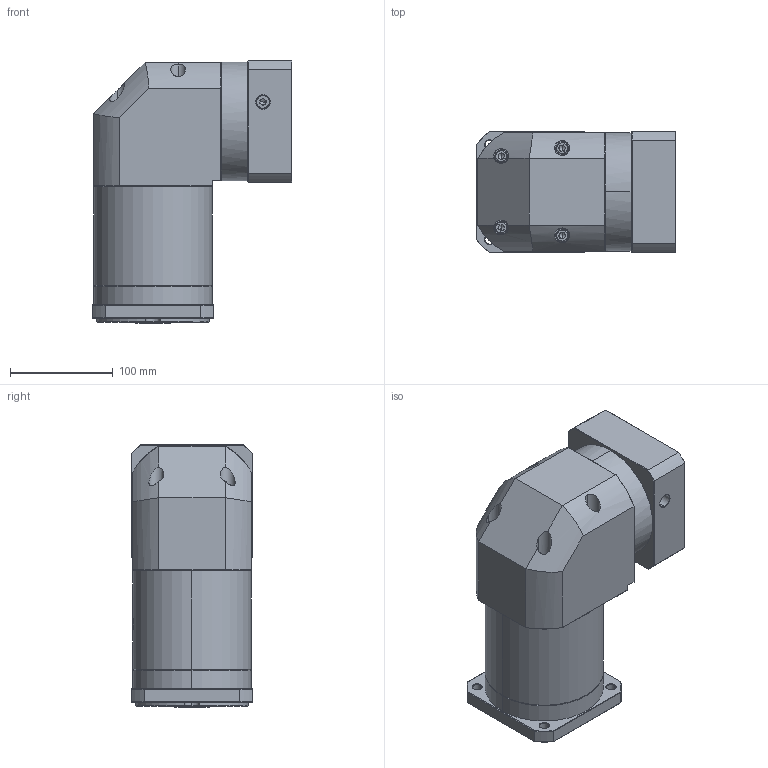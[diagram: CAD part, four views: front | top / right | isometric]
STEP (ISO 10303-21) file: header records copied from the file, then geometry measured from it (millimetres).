
FILE_DESCRIPTION (( 'STEP AP214' ), '1' );
FILE_NAME ('ZFR120A-K25-L3-P2-22-110-130-M8.step', '2023-08-27T08:17:20', ( '' ), ( '' ), 'SwSTEP 2.0', 'SolidWorks 2016', '' );
FILE_SCHEMA (( 'AUTOMOTIVE_DESIGN' ));
Length unit declared in the file: millimetre
Products named in the file (1): ZFR120A-K25-L3-P2-22-110-130-M8
Bounding box: 193.9 x 118 x 255 mm (x, y, z)
Volume: 3417108.3 mm3; surface area: 262885.2 mm2
Topology: 6 solids, 6 shells, 2210 faces, 5822 edges, 3717 vertices
Faces by surface type: plane 1054, bspline 416, cylinder 401, cone 331, torus 8
Entity records: 118681 total; most frequent: CARTESIAN_POINT 45093, ORIENTED_EDGE 11588, DIRECTION 8416, EDGE_CURVE 5794, VERTEX_POINT 3717, VECTOR 3106, LINE 3106, AXIS2_PLACEMENT_3D 2655
